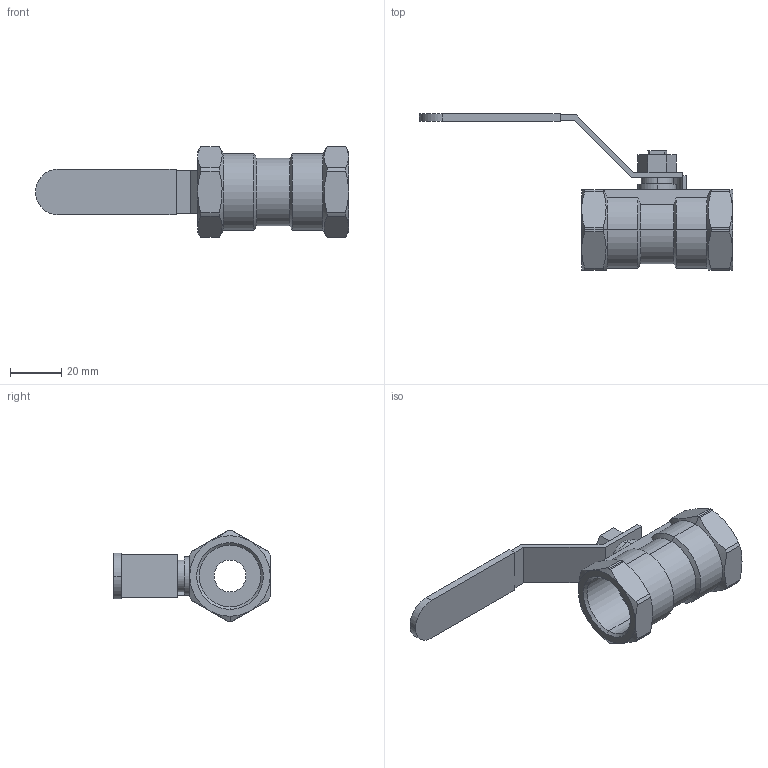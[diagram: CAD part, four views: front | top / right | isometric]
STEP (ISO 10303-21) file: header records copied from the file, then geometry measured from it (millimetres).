
FILE_DESCRIPTION (( 'STEP AP203' ), '1' );
FILE_NAME ('A3.622I020XFVPB0.STEP', '2018-11-06T08:46:27', ( '' ), ( '' ), 'SwSTEP 2.0', 'SolidWorks 2014', '' );
FILE_SCHEMA (( 'CONFIG_CONTROL_DESIGN' ));
Length unit declared in the file: millimetre
Products named in the file (1): A3.622I020XFVPB0
Bounding box: 122.5 x 61.25 x 35.5 mm (x, y, z)
Volume: 31622.4 mm3; surface area: 15899 mm2
Topology: 1 solids, 1 shells, 117 faces, 290 edges, 183 vertices
Faces by surface type: plane 47, cylinder 40, cone 30
Entity records: 3748 total; most frequent: CARTESIAN_POINT 896, ORIENTED_EDGE 580, DIRECTION 580, EDGE_CURVE 290, AXIS2_PLACEMENT_3D 219, VERTEX_POINT 183, VECTOR 142, LINE 142
